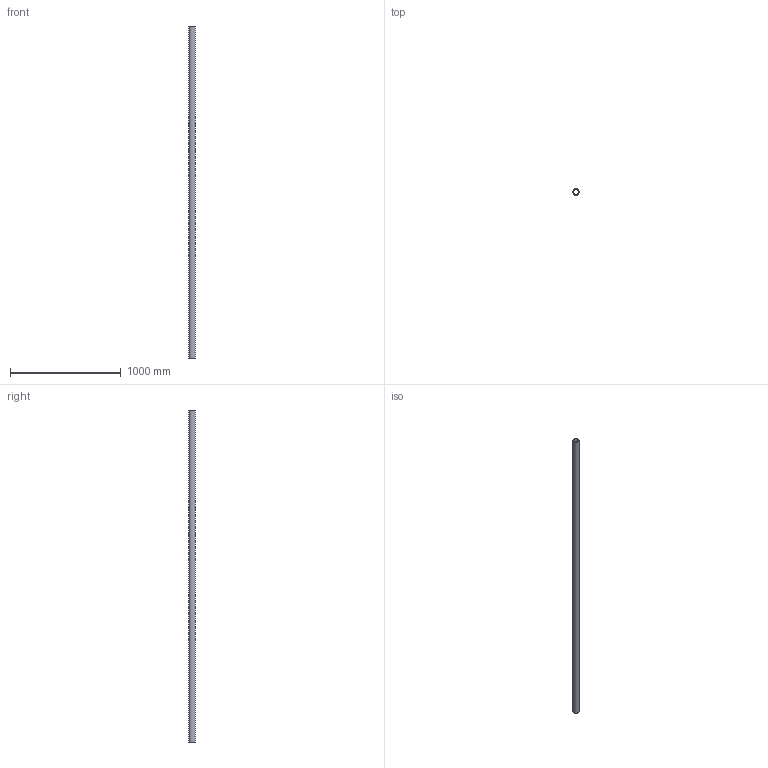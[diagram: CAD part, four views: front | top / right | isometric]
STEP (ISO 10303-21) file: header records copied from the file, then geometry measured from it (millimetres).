
FILE_DESCRIPTION(/* description */ (''),/* implementation_level */ '2;1');
FILE_NAME(/* name */ 'Z:\Geberit\Export\Export18\Rohr PE_Ipart\stp\305000.stp',/* time_stamp */ '2014-08-26T22:07:24+02:00',/* author */ ('Bründl'),/* organization */ (''),/* preprocessor_version */ 'ST-DEVELOPER v15.2',/* originating_system */ 'Autodesk Inventor 2014',/* authorisation */ '');
FILE_SCHEMA (('AUTOMOTIVE_DESIGN { 1 0 10303 214 3 1 1 }'));
Length unit declared in the file: millimetre
Products named in the file (1): 305000
Bounding box: 56 x 56 x 3000 mm (x, y, z)
Volume: 1592410.5 mm3; surface area: 996318.2 mm2
Topology: 1 solids, 1 shells, 4 faces, 6 edges, 4 vertices
Faces by surface type: cylinder 2, plane 2
Full cylindrical faces by diameter (mm): 49.6 x1, 56 x1
Entity records: 113 total; most frequent: DIRECTION 18, CARTESIAN_POINT 13, AXIS2_PLACEMENT_3D 9, EDGE_LOOP 8, ORIENTED_EDGE 8, FACE_BOUND 6, STYLED_ITEM 5, CIRCLE 4
